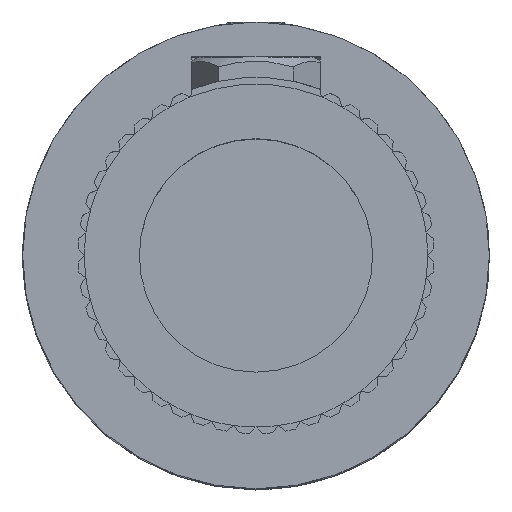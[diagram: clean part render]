
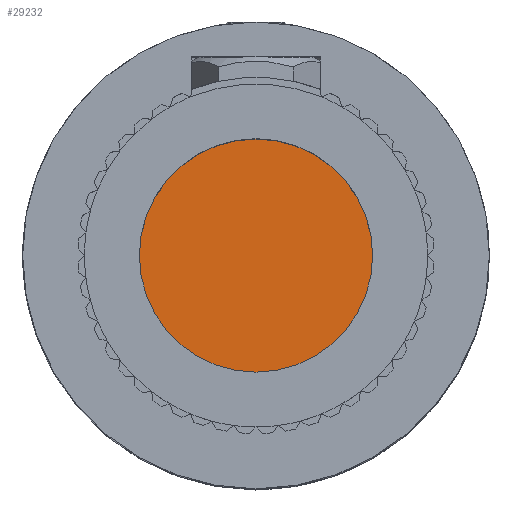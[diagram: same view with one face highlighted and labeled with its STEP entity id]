
A CAD part, top view. The second image highlights one B-rep face of the part: STEP entity #29232.
In plain terms, the highlighted planar face has unit normal (0, 0, 1).
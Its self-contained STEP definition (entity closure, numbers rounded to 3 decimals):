
#6128=CARTESIAN_POINT('',(6.35,0.,8.2));
#6129=VERTEX_POINT('',#6128);
#6130=CARTESIAN_POINT('',(0.,0.,8.2));
#6131=DIRECTION('',(0.0,0.0,1.0));
#6132=DIRECTION('',(-1.0,0.0,0.0));
#6133=AXIS2_PLACEMENT_3D('',#6130,#6131,#6132);
#6134=CIRCLE('',#6133,6.35);
#6135=EDGE_CURVE('',#6129,#6129,#6134,.T.);
#29224=CARTESIAN_POINT('',(0.0,0.0,8.2));
#29225=DIRECTION('',(0.0,0.0,-1.0));
#29226=DIRECTION('',(-1.0,0.0,0.0));
#29227=AXIS2_PLACEMENT_3D('',#29224,#29225,#29226);
#29228=PLANE('',#29227);
#29229=ORIENTED_EDGE('',*,*,#6135,.T.);
#29230=EDGE_LOOP('',(#29229));
#29231=FACE_OUTER_BOUND('',#29230,.T.);
#29232=ADVANCED_FACE('',(#29231),#29228,.F.);
